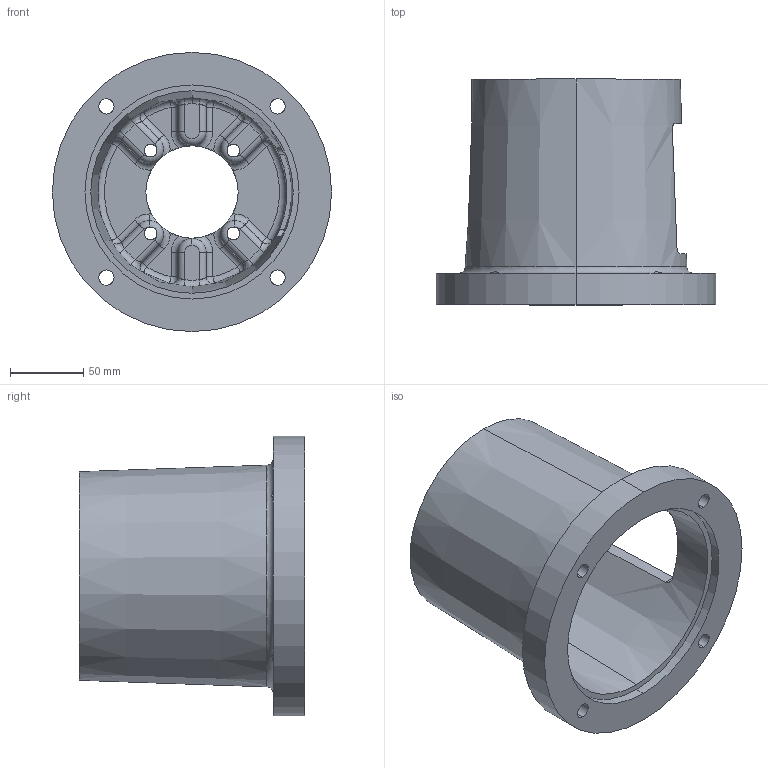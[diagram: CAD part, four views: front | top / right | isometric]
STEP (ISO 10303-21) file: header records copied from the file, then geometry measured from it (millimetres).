
FILE_DESCRIPTION (( 'STEP AP203' ), '1' );
FILE_NAME ('E5756063MS.STEP', '2014-11-03T16:11:13', ( '' ), ( '' ), 'SwSTEP 2.0', 'SolidWorks 2014', '' );
FILE_SCHEMA (( 'CONFIG_CONTROL_DESIGN' ));
Length unit declared in the file: inch
Products named in the file (1): E5756063MS
Bounding box: 190.5 x 153.92 x 190.5 mm (x, y, z)
Volume: 754472.4 mm3; surface area: 179568.2 mm2
Topology: 1 solids, 1 shells, 164 faces, 422 edges, 242 vertices
Faces by surface type: cylinder 59, torus 33, plane 32, bspline 24, sphere 12, cone 4
Entity records: 6931 total; most frequent: CARTESIAN_POINT 3008, DIRECTION 833, ORIENTED_EDGE 820, EDGE_CURVE 410, AXIS2_PLACEMENT_3D 368, VERTEX_POINT 242, CIRCLE 227, EDGE_LOOP 178
